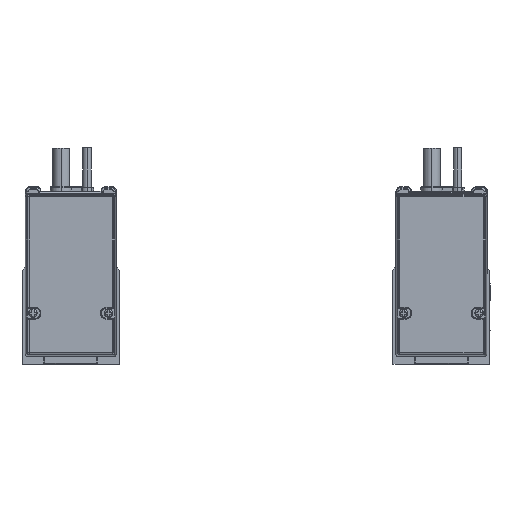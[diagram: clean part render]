
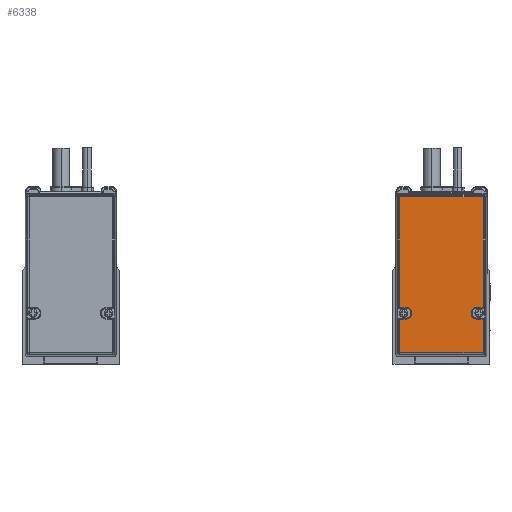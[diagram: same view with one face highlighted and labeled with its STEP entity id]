
A CAD part, left-side view. The second image highlights one B-rep face of the part: STEP entity #6338.
In plain terms, the highlighted planar face has unit normal (-1, 0, 0).
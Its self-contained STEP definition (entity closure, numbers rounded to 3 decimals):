
#6338=ADVANCED_FACE('',(#15802),#15803,.F.);
#15802=FACE_OUTER_BOUND('',#30669,.T.);
#15803=PLANE('',#30670);
#30669=EDGE_LOOP('',(#56241,#56242,#56243,#56244,#56245,#56246,#56247,#56248,#56249,#56250,#56251,#56252,#56253,#56254,#56255,#56256));
#30670=AXIS2_PLACEMENT_3D('',#56257,#56258,#56259);
#56241=ORIENTED_EDGE('',*,*,#92381,.F.);
#56242=ORIENTED_EDGE('',*,*,#92346,.F.);
#56243=ORIENTED_EDGE('',*,*,#92382,.F.);
#56244=ORIENTED_EDGE('',*,*,#89950,.F.);
#56245=ORIENTED_EDGE('',*,*,#92383,.F.);
#56246=ORIENTED_EDGE('',*,*,#92384,.F.);
#56247=ORIENTED_EDGE('',*,*,#92385,.F.);
#56248=ORIENTED_EDGE('',*,*,#92386,.F.);
#56249=ORIENTED_EDGE('',*,*,#92387,.F.);
#56250=ORIENTED_EDGE('',*,*,#92388,.F.);
#56251=ORIENTED_EDGE('',*,*,#92389,.F.);
#56252=ORIENTED_EDGE('',*,*,#92390,.F.);
#56253=ORIENTED_EDGE('',*,*,#92391,.F.);
#56254=ORIENTED_EDGE('',*,*,#90636,.F.);
#56255=ORIENTED_EDGE('',*,*,#92392,.F.);
#56256=ORIENTED_EDGE('',*,*,#92393,.F.);
#56257=CARTESIAN_POINT('',(1511.3,11.59,536.038));
#56258=DIRECTION('',(1.0,0.0,0.0));
#56259=DIRECTION('',(0.0,1.0,0.));
#89950=EDGE_CURVE('',#106752,#106754,#106755,.T.);
#90636=EDGE_CURVE('',#107953,#107955,#107956,.T.);
#92346=EDGE_CURVE('',#110803,#110805,#110806,.T.);
#92381=EDGE_CURVE('',#110805,#110863,#110864,.T.);
#92382=EDGE_CURVE('',#106754,#110803,#110865,.T.);
#92383=EDGE_CURVE('',#110866,#106752,#110867,.T.);
#92384=EDGE_CURVE('',#110868,#110866,#110869,.T.);
#92385=EDGE_CURVE('',#110870,#110868,#110871,.T.);
#92386=EDGE_CURVE('',#110872,#110870,#110873,.T.);
#92387=EDGE_CURVE('',#106199,#110872,#110874,.T.);
#92388=EDGE_CURVE('',#110875,#106199,#110876,.T.);
#92389=EDGE_CURVE('',#108785,#110875,#110877,.T.);
#92390=EDGE_CURVE('',#110878,#108785,#110879,.T.);
#92391=EDGE_CURVE('',#107955,#110878,#110880,.T.);
#92392=EDGE_CURVE('',#110881,#107953,#110882,.T.);
#92393=EDGE_CURVE('',#110863,#110881,#110883,.T.);
#106199=VERTEX_POINT('',#129677);
#106752=VERTEX_POINT('',#130402);
#106754=VERTEX_POINT('',#130404);
#106755=LINE('',#130405,#130406);
#107953=VERTEX_POINT('',#132057);
#107955=VERTEX_POINT('',#132059);
#107956=CIRCLE('',#132060,2.5);
#108785=VERTEX_POINT('',#133333);
#110803=VERTEX_POINT('',#136135);
#110805=VERTEX_POINT('',#136137);
#110806=LINE('',#136138,#136139);
#110863=VERTEX_POINT('',#136209);
#110864=LINE('',#136210,#136211);
#110865=LINE('',#136212,#136213);
#110866=VERTEX_POINT('',#136214);
#110867=LINE('',#136215,#136216);
#110868=VERTEX_POINT('',#136217);
#110869=CIRCLE('',#136218,2.5);
#110870=VERTEX_POINT('',#136219);
#110871=LINE('',#136220,#136221);
#110872=VERTEX_POINT('',#136222);
#110873=CIRCLE('',#136223,2.5);
#110874=LINE('',#136224,#136225);
#110875=VERTEX_POINT('',#136226);
#110876=LINE('',#136227,#136228);
#110877=LINE('',#136229,#136230);
#110878=VERTEX_POINT('',#136231);
#110879=LINE('',#136232,#136233);
#110880=LINE('',#136234,#136235);
#110881=VERTEX_POINT('',#136236);
#110882=LINE('',#136237,#136238);
#110883=CIRCLE('',#136239,2.5);
#129677=CARTESIAN_POINT('',(1511.3,-7.72,519.492));
#130402=CARTESIAN_POINT('',(1511.3,-7.72,514.092));
#130404=CARTESIAN_POINT('',(1511.3,-7.72,498.482));
#130405=CARTESIAN_POINT('',(1511.3,-7.72,536.038));
#130406=VECTOR('',#160544,1.0);
#132057=CARTESIAN_POINT('',(1511.3,25.39,516.992));
#132059=CARTESIAN_POINT('',(1511.3,27.89,519.492));
#132060=AXIS2_PLACEMENT_3D('',#161523,#161524,#161525);
#133333=CARTESIAN_POINT('',(1511.3,30.9,570.666));
#136135=CARTESIAN_POINT('',(1511.3,30.9,498.482));
#136137=CARTESIAN_POINT('',(1511.3,30.9,514.092));
#136138=CARTESIAN_POINT('',(1511.3,30.9,538.216));
#136139=VECTOR('',#163916,1.0);
#136209=CARTESIAN_POINT('',(1511.3,27.89,514.092));
#136210=CARTESIAN_POINT('',(1511.3,20.34,514.092));
#136211=VECTOR('',#163969,1.0);
#136212=CARTESIAN_POINT('',(1511.3,11.59,498.482));
#136213=VECTOR('',#163970,1.0);
#136214=CARTESIAN_POINT('',(1511.3,-4.71,514.092));
#136215=CARTESIAN_POINT('',(1511.3,2.84,514.092));
#136216=VECTOR('',#163971,1.0);
#136217=CARTESIAN_POINT('',(1511.3,-2.21,516.592));
#136218=AXIS2_PLACEMENT_3D('',#163972,#163973,#163974);
#136219=CARTESIAN_POINT('',(1511.3,-2.21,516.992));
#136220=CARTESIAN_POINT('',(1511.3,-2.21,526.415));
#136221=VECTOR('',#163975,1.0);
#136222=CARTESIAN_POINT('',(1511.3,-4.71,519.492));
#136223=AXIS2_PLACEMENT_3D('',#163976,#163977,#163978);
#136224=CARTESIAN_POINT('',(1511.3,2.84,519.492));
#136225=VECTOR('',#163979,1.0);
#136226=CARTESIAN_POINT('',(1511.3,-7.72,570.666));
#136227=CARTESIAN_POINT('',(1511.3,-7.72,536.038));
#136228=VECTOR('',#163980,1.0);
#136229=CARTESIAN_POINT('',(1511.3,10.34,570.666));
#136230=VECTOR('',#163981,1.0);
#136231=CARTESIAN_POINT('',(1511.3,30.9,519.492));
#136232=CARTESIAN_POINT('',(1511.3,30.9,538.216));
#136233=VECTOR('',#163982,1.0);
#136234=CARTESIAN_POINT('',(1511.3,20.34,519.492));
#136235=VECTOR('',#163983,1.0);
#136236=CARTESIAN_POINT('',(1511.3,25.39,516.592));
#136237=CARTESIAN_POINT('',(1511.3,25.39,526.415));
#136238=VECTOR('',#163984,1.0);
#136239=AXIS2_PLACEMENT_3D('',#163985,#163986,#163987);
#160544=DIRECTION('',(0.0,0.,-1.0));
#161523=CARTESIAN_POINT('',(1511.3,27.89,516.992));
#161524=DIRECTION('',(-1.0,0.0,0.0));
#161525=DIRECTION('',(0.0,-0.707,0.707));
#163916=DIRECTION('',(0.0,0.,1.0));
#163969=DIRECTION('',(0.0,-1.0,0.0));
#163970=DIRECTION('',(0.0,1.0,0.0));
#163971=DIRECTION('',(0.0,-1.0,0.0));
#163972=CARTESIAN_POINT('',(1511.3,-4.71,516.592));
#163973=DIRECTION('',(-1.0,0.0,0.0));
#163974=DIRECTION('',(0.0,0.707,-0.707));
#163975=DIRECTION('',(0.0,0.0,-1.0));
#163976=CARTESIAN_POINT('',(1511.3,-4.71,516.992));
#163977=DIRECTION('',(-1.0,0.0,0.0));
#163978=DIRECTION('',(0.0,0.707,0.707));
#163979=DIRECTION('',(0.0,1.0,0.0));
#163980=DIRECTION('',(0.0,0.,-1.0));
#163981=DIRECTION('',(0.0,-1.0,0.0));
#163982=DIRECTION('',(0.0,0.,1.0));
#163983=DIRECTION('',(0.0,1.0,0.0));
#163984=DIRECTION('',(0.0,0.0,1.0));
#163985=CARTESIAN_POINT('',(1511.3,27.89,516.592));
#163986=DIRECTION('',(-1.0,0.0,0.0));
#163987=DIRECTION('',(0.0,-0.707,-0.707));
